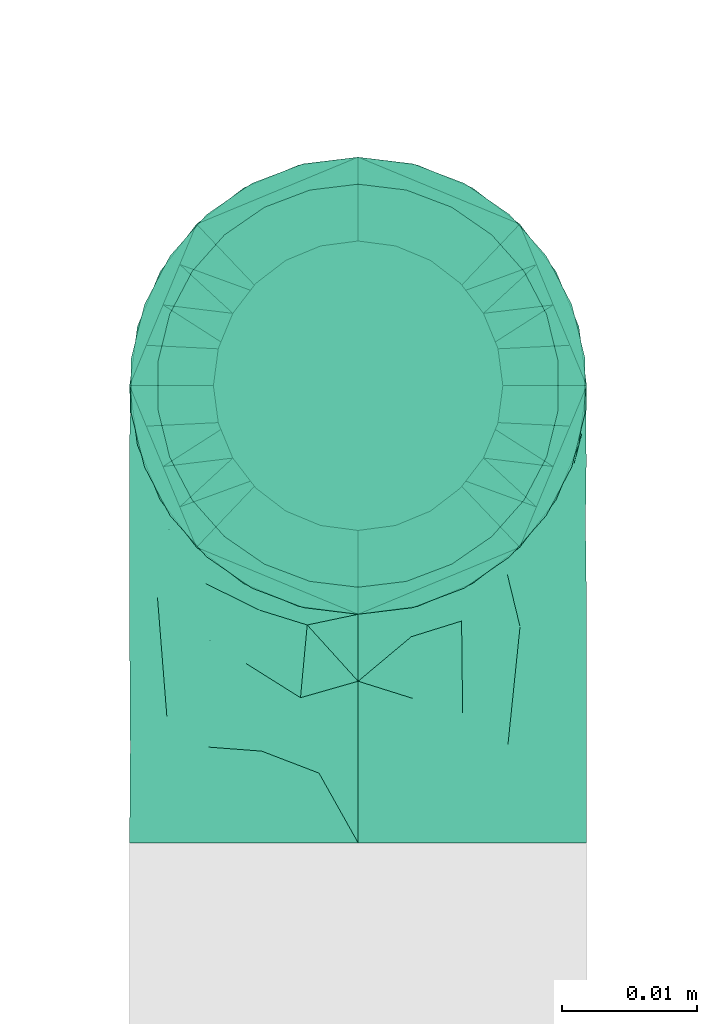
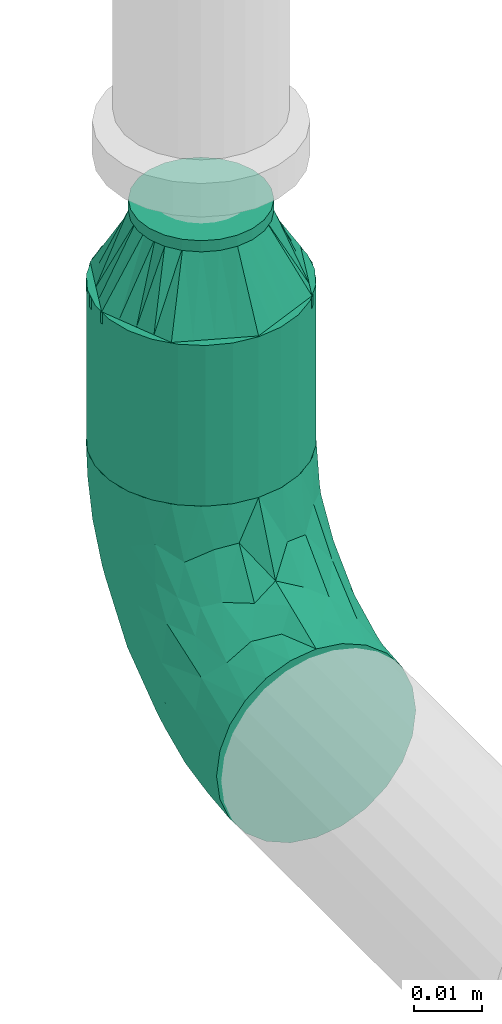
# One storey, part 68 of 94: 2 flow fittings, 1 flow segment.
"""IFC2X3 building model written with IfcOpenShell, lengths in millimetres."""

from ifc_helpers import new_model, entity, si_unit, converted_unit, derived_unit, direction, frame, origin_with_axes, origin_2d_with_axis, place, context, subcontext, project, spatial, hollow_circle, extrude, open_shell, surface_model, source, transform, mapped, type_object, element, save


model = new_model("IFC2X3")

# Units and contexts
model_context = context("Model", 3, precision=0.01, world=frame((0.0, 4.29681676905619e-09, 0.0)), true_north=direction((4.01073788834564e-13, 1.0)))
plan_context = context("Plan", 3, precision=0.01, world=frame((0.0, 4.29681676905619e-09, 0.0)), true_north=direction((4.01073788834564e-13, 1.0)))
body_context = subcontext(model_context, "Body", "Model", "MODEL_VIEW")
ifc_project = project(units=[converted_unit("PLANEANGLEUNIT", "DEGREE", entity("IfcPositiveLengthMeasure", 0.0174532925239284), si_unit("PLANEANGLEUNIT", "RADIAN"), dimensions=[0, 0, 0, 0, 0, 0, 0]), si_unit("AREAUNIT", "SQUARE_METRE"), si_unit("LENGTHUNIT", "METRE", prefix="MILLI"), si_unit("MASSUNIT", "GRAM", prefix="KILO"), si_unit("POWERUNIT", "WATT"), si_unit("PRESSUREUNIT", "PASCAL"), si_unit("FORCEUNIT", "NEWTON", prefix="KILO"), si_unit("ELECTRICCURRENTUNIT", "AMPERE"), si_unit("THERMODYNAMICTEMPERATUREUNIT", "DEGREE_CELSIUS"), si_unit("TIMEUNIT", "SECOND"), si_unit("VOLUMEUNIT", "CUBIC_METRE"), derived_unit("LINEARVELOCITYUNIT", [(si_unit("LENGTHUNIT", "METRE"), 1), (si_unit("TIMEUNIT", "SECOND"), -1)]), derived_unit("VOLUMETRICFLOWRATEUNIT", [(si_unit("VOLUMEUNIT", "CUBIC_METRE"), 1), (si_unit("TIMEUNIT", "SECOND"), -1)]), derived_unit("THERMALTRANSMITTANCEUNIT", [(si_unit("POWERUNIT", "WATT"), 1), (si_unit("THERMODYNAMICTEMPERATUREUNIT", "KELVIN"), -1), (si_unit("AREAUNIT", "SQUARE_METRE"), -1)])], contexts=[model_context, plan_context])

# Site, building, storey
site_placement = place(None, frame((0.0, -4.29681676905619e-09, 0.0), z_axis=(0.0, 0.0, 1.0), x_axis=(1.0, 0.0, 0.0)))
site = spatial("IfcSite", under=ifc_project, at=site_placement, CompositionType="ELEMENT")
building_placement = place(site_placement, frame((0.0, 4.29681676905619e-09, 0.0), z_axis=(0.0, 0.0, 1.0), x_axis=(1.0, 0.0, 0.0)))
building = spatial("IfcBuilding", under=site, at=building_placement, Name="mc-building", CompositionType="ELEMENT")
storey_placement = place(building_placement, frame((0.0, 0.0, 200300.0), z_axis=(0.0, 0.0, 1.0), x_axis=(1.0, 0.0, 0.0)))
storey = spatial("IfcBuildingStorey", under=building, at=storey_placement, Name="Nivå C", CompositionType="ELEMENT", Elevation=200300.0)

# Flow fittings
pipe_fitting_type_1 = type_object("IfcPipeFittingType", Name="magi_pipe_fe_reducer_centric_short_NOR", PredefinedType="TRANSITION")
shared_shape_1 = source(origin_with_axes(), body_context, "Body", "SurfaceModel", [
    surface_model("IfcShellBasedSurfaceModel", [(14.4, 5.35, -9.26647), (14.4, 0.0, -10.7), (14.4, 2.76936, -10.33541), (14.4, 10.33541, -2.76936), (14.4, 7.56604, -7.56604), (14.4, -10.33541, -2.76936), (14.4, 9.26647, -5.35), (14.4, 0.0, 10.7), (14.4, -5.35, -9.26647), (14.4, -2.76936, -10.33541), (14.4, -7.56604, -7.56604), (14.4, -9.26647, -5.35), (14.4, 10.7, 0.0), (14.4, 10.33541, 2.76936), (14.4, 9.26647, 5.35), (14.4, 7.56604, 7.56604), (14.4, 2.76936, 10.33541), (14.4, 5.35, 9.26647), (14.4, -10.33541, 2.76936), (14.4, -7.56604, 7.56604), (14.4, -9.26647, 5.35), (14.4, -10.7, 0.0), (14.4, -2.76936, 10.33541), (14.4, -5.35, 9.26647), (12.4, 2.76936, 10.33541), (12.4, -10.33541, -2.76936), (12.4, 0.0, 10.7), (12.4, 5.35, 9.26647), (12.4, 7.56604, 7.56604), (12.4, 9.26647, 5.35), (12.4, 10.33541, 2.76936), (12.4, -10.33541, 2.76936), (12.4, -2.76936, 10.33541), (12.4, -7.56604, 7.56604), (12.4, -5.35, 9.26647), (12.4, -9.26647, 5.35), (12.4, -10.7, 0.0), (12.4, 10.33541, -2.76936), (12.4, 5.35, -9.26647), (12.4, 9.26647, -5.35), (12.4, 7.56604, -7.56604), (12.4, 2.76936, -10.33541), (12.4, -9.26647, -5.35), (12.4, -5.35, -9.26647), (12.4, -7.56604, -7.56604), (12.4, 0.0, -10.7), (12.4, -2.76936, -10.33541), (12.4, 10.7, 0.0), (-2.0, 11.9501, 11.9501), (-2.0, 0.0, 16.9), (-2.0, 4.37404, 16.32415), (-2.0, 8.45, 14.63583), (-2.0, 14.63583, 8.45), (-2.0, 16.32415, 4.37404), (-2.0, -16.32415, 4.37404), (-2.0, -8.45, 14.63583), (-2.0, -14.63583, 8.45), (-2.0, -11.9501, 11.9501), (-2.0, -4.37404, 16.32415), (-2.0, -16.32415, -4.37404), (-2.0, -16.9, 0.0), (-2.0, -8.45, -14.63583), (-2.0, 16.32415, -4.37404), (-2.0, 11.9501, -11.9501), (-2.0, 14.63583, -8.45), (-2.0, 8.45, -14.63583), (-2.0, 4.37404, -16.32415), (-2.0, 0.0, -16.9), (-2.0, -11.9501, -11.9501), (-2.0, -14.63583, -8.45), (-2.0, -4.37404, -16.32415), (-2.0, 16.9, 0.0), (0.0, 4.37404, -16.32415), (0.0, 8.45, -14.63583), (0.0, 11.9501, -11.9501), (0.0, 0.0, -16.9), (0.0, 16.32415, -4.37404), (0.0, 16.32415, 4.37404), (0.0, 14.63583, -8.45), (0.0, -8.45, -14.63583), (0.0, -4.37404, -16.32415), (0.0, -11.9501, -11.9501), (0.0, -16.32415, -4.37404), (0.0, -14.63583, -8.45), (0.0, -16.32415, 4.37404), (0.0, 16.9, 0.0), (0.0, 14.63583, 8.45), (0.0, 11.9501, 11.9501), (0.0, 4.37404, 16.32415), (0.0, 8.45, 14.63583), (0.0, 0.0, 16.9), (0.0, -14.63583, 8.45), (0.0, -16.9, 0.0), (0.0, -8.45, 14.63583), (0.0, -11.9501, 11.9501), (0.0, -4.37404, 16.32415), (12.4, 9.3625, -2.31662), (0.0, 14.42505, -5.97505), (0.0, 15.66253, -2.98753), (12.4, -6.6875, -6.94985), (0.0, -13.18758, -8.96258), (0.0, 2.98753, -15.66253), (12.4, 0.0, -9.26647), (12.4, 6.6875, -6.94985), (0.0, 8.96258, -13.18758), (12.4, -9.3625, -2.31662), (0.0, -15.66253, -2.98753), (0.0, -14.42505, -5.97505), (0.0, 5.97505, -14.42505), (0.0, -2.98753, -15.66253), (0.0, -8.96258, -13.18758), (0.0, 13.18758, -8.96258), (12.4, 8.025, -4.63324), (12.4, -2.675, -9.26647), (12.4, 2.675, -9.26647), (0.0, -5.97505, -14.42505), (12.4, -8.025, -4.63324), (12.4, -9.3625, 2.31662), (0.0, -14.42505, 5.97505), (0.0, -15.66253, 2.98753), (12.4, 6.6875, 6.94985), (0.0, 13.18758, 8.96258), (0.0, -2.98753, 15.66253), (12.4, 0.0, 9.26647), (12.4, -6.6875, 6.94985), (0.0, -8.96258, 13.18758), (12.4, 9.3625, 2.31662), (0.0, 15.66253, 2.98753), (0.0, 14.42505, 5.97505), (0.0, -5.97505, 14.42505), (0.0, 2.98753, 15.66253), (0.0, 8.96258, 13.18758), (0.0, -13.18758, 8.96258), (12.4, -8.025, 4.63324), (12.4, 2.675, 9.26647), (12.4, -2.675, 9.26647), (0.0, 5.97505, 14.42505), (12.4, 8.025, 4.63324)], [open_shell([[[0, 1, 2]], [[3, 0, 4]], [[5, 0, 3]], [[3, 4, 6]], [[7, 5, 3]], [[1, 8, 9]], [[1, 0, 8]], [[10, 5, 11]], [[5, 10, 8]], [[0, 5, 8]], [[3, 12, 13]], [[13, 14, 15]], [[13, 15, 16]], [[7, 3, 16]], [[16, 15, 17]], [[7, 18, 5]], [[18, 19, 20]], [[21, 5, 18]], [[19, 22, 23]], [[22, 19, 18]], [[7, 22, 18]], [[13, 16, 3]], [[24, 25, 26]], [[27, 25, 24]], [[28, 29, 30]], [[28, 25, 27]], [[31, 26, 25]], [[32, 33, 34]], [[33, 32, 31]], [[33, 31, 35]], [[32, 26, 31]], [[31, 25, 36]], [[30, 37, 28]], [[25, 28, 37]], [[38, 37, 39]], [[37, 38, 25]], [[38, 39, 40]], [[41, 25, 38]], [[42, 43, 44]], [[43, 42, 25]], [[43, 45, 46]], [[43, 25, 41]], [[41, 45, 43]], [[37, 30, 47]], [[25, 5, 36]], [[42, 11, 25]], [[8, 44, 43]], [[42, 44, 10]], [[9, 43, 46]], [[25, 11, 5]], [[5, 21, 36]], [[9, 8, 43]], [[10, 44, 8]], [[10, 11, 42]], [[1, 9, 46]], [[46, 45, 1]], [[41, 2, 45]], [[38, 0, 41]], [[6, 40, 39]], [[38, 40, 4]], [[3, 39, 37]], [[38, 4, 0]], [[0, 2, 41]], [[12, 3, 37]], [[6, 39, 3]], [[6, 4, 40]], [[47, 12, 37]], [[45, 2, 1]], [[30, 13, 47]], [[29, 14, 30]], [[17, 28, 27]], [[29, 28, 15]], [[16, 27, 24]], [[30, 14, 13]], [[13, 12, 47]], [[16, 17, 27]], [[15, 28, 17]], [[15, 14, 29]], [[7, 16, 24]], [[24, 26, 7]], [[32, 22, 26]], [[34, 23, 32]], [[20, 33, 35]], [[34, 33, 19]], [[18, 35, 31]], [[34, 19, 23]], [[23, 22, 32]], [[21, 18, 31]], [[20, 35, 18]], [[20, 19, 33]], [[36, 21, 31]], [[26, 22, 7]], [[48, 49, 50]], [[48, 50, 51]], [[48, 52, 53]], [[48, 53, 49]], [[49, 53, 54]], [[55, 56, 57]], [[55, 58, 49]], [[56, 55, 49]], [[49, 54, 56]], [[54, 59, 60]], [[54, 53, 61]], [[53, 62, 63]], [[63, 62, 64]], [[63, 65, 66]], [[61, 53, 63]], [[67, 63, 66]], [[59, 68, 69]], [[68, 59, 61]], [[61, 67, 70]], [[59, 54, 61]], [[63, 67, 61]], [[53, 71, 62]], [[72, 73, 74]], [[75, 72, 74]], [[74, 76, 77]], [[76, 74, 78]], [[74, 77, 79]], [[75, 79, 80]], [[75, 74, 79]], [[81, 82, 83]], [[82, 81, 79]], [[79, 84, 82]], [[77, 76, 85]], [[77, 86, 87]], [[77, 87, 88]], [[88, 84, 79]], [[88, 87, 89]], [[84, 88, 90]], [[90, 91, 84]], [[92, 82, 84]], [[91, 93, 94]], [[91, 90, 93]], [[93, 90, 95]], [[79, 77, 88]], [[59, 82, 60]], [[69, 83, 59]], [[79, 68, 61]], [[69, 68, 81]], [[80, 61, 70]], [[59, 83, 82]], [[82, 92, 60]], [[80, 79, 61]], [[81, 68, 79]], [[81, 83, 69]], [[75, 80, 70]], [[70, 67, 75]], [[66, 72, 67]], [[65, 73, 66]], [[78, 63, 64]], [[65, 63, 74]], [[76, 64, 62]], [[65, 74, 73]], [[73, 72, 66]], [[85, 76, 62]], [[78, 64, 76]], [[78, 74, 63]], [[71, 85, 62]], [[67, 72, 75]], [[53, 77, 71]], [[52, 86, 53]], [[89, 48, 51]], [[52, 48, 87]], [[88, 51, 50]], [[53, 86, 77]], [[77, 85, 71]], [[88, 89, 51]], [[87, 48, 89]], [[87, 86, 52]], [[90, 88, 50]], [[50, 49, 90]], [[58, 95, 49]], [[55, 93, 58]], [[91, 57, 56]], [[55, 57, 94]], [[84, 56, 54]], [[55, 94, 93]], [[93, 95, 58]], [[92, 84, 54]], [[91, 56, 84]], [[91, 94, 57]], [[60, 92, 54]], [[49, 95, 90]], [[27, 34, 47]], [[47, 34, 43]], [[43, 38, 47]], [[43, 34, 36]], [[90, 87, 94]], [[92, 94, 87]], [[87, 74, 92]], [[75, 92, 74]], [[81, 92, 75]], [[74, 87, 85]], [[96, 97, 98]], [[81, 99, 100]], [[101, 102, 75]], [[98, 85, 47]], [[74, 103, 104]], [[104, 103, 38]], [[105, 106, 107]], [[38, 108, 104]], [[102, 109, 75]], [[110, 99, 81]], [[47, 96, 98]], [[103, 111, 112]], [[109, 102, 113]], [[36, 92, 106]], [[102, 101, 114]], [[110, 115, 43]], [[96, 112, 97]], [[107, 116, 105]], [[36, 106, 105]], [[113, 115, 109]], [[43, 115, 113]], [[116, 107, 100]], [[108, 38, 114]], [[111, 103, 74]], [[111, 97, 112]], [[99, 110, 43]], [[116, 100, 99]], [[101, 108, 114]], [[117, 118, 119]], [[87, 120, 121]], [[122, 123, 90]], [[119, 92, 36]], [[94, 124, 125]], [[125, 124, 34]], [[126, 127, 128]], [[34, 129, 125]], [[123, 130, 90]], [[131, 120, 87]], [[36, 117, 119]], [[124, 132, 133]], [[130, 123, 134]], [[47, 85, 127]], [[123, 122, 135]], [[131, 136, 27]], [[117, 133, 118]], [[128, 137, 126]], [[47, 127, 126]], [[134, 136, 130]], [[27, 136, 134]], [[137, 128, 121]], [[129, 34, 135]], [[132, 124, 94]], [[132, 118, 133]], [[120, 131, 27]], [[137, 121, 120]], [[122, 129, 135]]])]),
])
flow_fitting_1_placement = place(storey_placement, frame((530500.0, 403933.19532, 2962.64799999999), z_axis=(-1.0, 0.0, 0.0), x_axis=(0.0, 0.0, 1.0)))
element("IfcFlowFitting", 1, at=flow_fitting_1_placement, inside=storey, type_object=pipe_fitting_type_1, Name="magi_pipe_fe_reducer_centric_short_NOR", context=body_context, shape_type="MappedRepresentation", body=[
    mapped(shared_shape_1, transform((0.0, 0.0, 0.0), scale=1.0)),
])
pipe_fitting_type_2 = type_object("IfcPipeFittingType", Name="magi_pipe_fe_elbow_short_001", PredefinedType="BEND")
shared_shape_2 = source(origin_with_axes(), body_context, "Body", "SurfaceModel", [
    surface_model("IfcShellBasedSurfaceModel", [(-33.8, 8.45, -14.63583), (-33.8, 4.37404, -16.32415), (-33.8, 11.9501, -11.9501), (-33.8, -11.9501, -11.9501), (-33.8, -14.63583, -8.45), (-33.8, -8.45, -14.63583), (-33.8, 0.0, -16.9), (-33.8, -4.37404, -16.32415), (-33.8, -4.37404, 16.32415), (-33.8, 0.0, 16.9), (-33.8, -8.45, 14.63583), (-33.8, 16.32415, -4.37404), (-33.8, 14.63583, -8.45), (-33.8, -16.32415, -4.37404), (-33.8, -16.9, 0.0), (-33.8, -16.32415, 4.37404), (-33.8, 11.9501, 11.9501), (-33.8, 14.63583, 8.45), (-33.8, 16.32415, 4.37404), (-33.8, 4.37404, 16.32415), (-33.8, 8.45, 14.63583), (-33.8, -14.63583, 8.45), (-33.8, -11.9501, 11.9501), (-33.8, 16.9, 0.0), (-11.9501, 33.8, -11.9501), (0.0, 33.8, -16.9), (-4.37404, 33.8, -16.32415), (-8.45, 33.8, -14.63583), (-14.63583, 33.8, -8.45), (-16.32415, 33.8, -4.37404), (14.63583, 33.8, -8.45), (8.45, 33.8, 14.63583), (16.32415, 33.8, -4.37404), (8.45, 33.8, -14.63583), (11.9501, 33.8, -11.9501), (4.37404, 33.8, -16.32415), (16.32415, 33.8, 4.37404), (16.9, 33.8, 0.0), (-11.9501, 33.8, 11.9501), (-16.32415, 33.8, 4.37404), (-14.63583, 33.8, 8.45), (-8.45, 33.8, 14.63583), (-4.37404, 33.8, 16.32415), (11.9501, 33.8, 11.9501), (14.63583, 33.8, 8.45), (0.0, 33.8, 16.9), (4.37404, 33.8, 16.32415), (-16.9, 33.8, 0.0), (-24.79389, -13.12945, 9.48721), (-22.19287, -9.75018, 12.59315), (-24.09897, -14.97035, 0.0), (-14.93934, -10.76256, 8.5297), (-22.46095, -14.75051, 5.27077), (14.75051, 22.46094, 5.27077), (11.9251, 13.23888, 4.33236), (13.04069, 14.39795, 0.0), (7.71387, 13.68847, 11.55891), (9.75018, 22.19287, 12.59315), (4.10169, 13.0571, 14.04018), (-24.84007, -6.39063, 15.2048), (-25.81779, -2.23879, 16.61097), (-23.66549, 2.59054, 16.87119), (-26.50418, 14.06512, 11.08152), (-24.21253, 17.66365, 7.72657), (-29.58514, 15.86957, 7.00283), (-6.17382, -7.5455, 0.0), (-13.23888, -11.9251, 4.33236), (-14.39795, -13.04069, 0.0), (-17.81434, 18.87373, 11.97104), (-6.30846, 29.15138, 15.82987), (-2.31622, 25.28002, 16.85849), (-29.23923, 10.23435, 13.77053), (-1.45439, -2.85688, 7.61475), (-0.28326, 0.34872, 10.09509), (-5.74484, -4.04709, 10.4122), (-4.41137, 11.31918, 16.59407), (-8.39727, 3.10034, 15.7812), (-1.72649, 9.1306, 15.53089), (-17.39909, 24.75344, 7.64977), (-26.19233, 20.0512, 0.0), (-28.14518, 17.29657, 4.25857), (-26.05147, 6.6281, 15.96447), (-5.87354, 16.61944, 16.86968), (-12.51807, 12.51807, 16.48937), (-10.06312, 7.38516, 16.81295), (-3.01882, 3.01882, 13.81718), (-13.0571, -4.10169, 14.04018), (-16.82553, -0.15166, 16.38038), (10.76256, 14.93934, 8.5297), (13.12945, 24.79389, 9.48721), (6.39063, 24.84007, 15.2048), (2.23879, 25.81779, 16.61097), (-13.68847, -7.71387, 11.55891), (14.97035, 24.09897, 0.0), (-7.30894, 22.89991, 16.09489), (-10.67958, 26.17414, 14.008), (-12.78295, 18.26924, 15.06066), (-13.88562, 22.45231, 12.93244), (-18.04944, 15.16501, 14.04434), (-23.11658, 20.08178, 4.02986), (-21.84989, 21.84989, 0.0), (-18.55817, 25.48277, 3.93065), (-13.95142, 26.94732, 11.03289), (-18.57098, 7.23906, 16.59756), (-16.58335, 4.14122, 16.89279), (-17.96666, 11.46709, 15.63151), (-9.84453, 17.54304, 16.18938), (0.15166, 16.82553, 16.38038), (-23.27207, 11.47201, 14.23154), (3.84842, 5.86994, 10.70473), (-8.0212, -7.54413, 7.93275), (1.00345, -2.19508, 4.57414), (5.13203, 3.01004, 5.90201), (5.24161, 1.7543, 2.53265), (8.70457, 7.04947, 3.99182), (-20.0512, 26.19233, 0.0), (8.4852, 8.76699, 7.09296), (-4.55488, -6.72064, 4.90681), (2.05031, -2.05031, 0.0), (7.5455, 6.17382, 0.0), (-26.75399, 2.1369, -16.845), (-14.61995, 24.73803, -11.27736), (-28.45274, -13.45335, -9.81895), (-26.00469, 6.63555, -15.96645), (-23.06726, 20.04573, -4.26202), (-13.80647, -4.26506, -14.17873), (-14.67501, -0.21081, -16.07388), (-6.7902, -0.2828, -13.8478), (-24.53586, 11.08096, -14.13417), (-26.72048, 14.00837, -11.05776), (10.0967, 24.44989, -12.75976), (5.83237, 21.40218, -15.03047), (6.66249, 28.54238, -15.38093), (-20.38182, 15.48705, -12.74596), (12.53268, 21.23441, -9.15363), (12.54494, 15.67504, -5.54878), (9.7522, 12.89279, -8.66343), (-15.65186, 19.64213, -13.01327), (-12.03528, 20.66498, -14.67665), (-15.61907, 15.61906, -14.83879), (-25.56551, -15.26206, 0.0), (-24.65452, -15.12934, -5.50955), (13.45335, 28.45274, -9.81895), (15.12934, 24.65452, -5.50955), (-7.35442, -8.31014, -5.65563), (-15.67504, -12.54494, -5.54878), (-24.44989, -10.0967, -12.75976), (0.16522, 0.41303, -9.71728), (-5.70658, -5.33066, -8.89288), (-5.13869, -2.37198, -11.53565), (-21.23441, -12.53268, -9.15363), (0.71146, 7.93863, -14.09382), (0.21081, 14.67501, -16.07388), (3.49291, 14.42772, -14.76381), (-24.89911, -2.13088, -16.591), (-28.54238, -6.66249, -15.38093), (-18.44386, -7.71663, -13.26957), (2.13088, 24.89911, -16.591), (-28.64342, 17.44413, -2.89318), (1.70017, -1.28722, -5.09504), (-16.57067, 26.81947, -7.36596), (-17.69055, 27.4263, -3.76405), (-12.89279, -9.7522, -8.66343), (-5.96611, 5.96611, -15.95814), (-20.53709, 20.09345, -8.28985), (-2.1369, 26.75399, -16.845), (-6.89872, 24.58781, -16.02578), (-10.60739, 26.53157, -13.98044), (-21.40218, -5.83237, -15.03047), (2.93192, 5.89627, -11.55917), (6.89393, 12.61842, -11.82233), (5.58056, 5.95325, -8.79455), (-3.99512, 18.61798, -16.89635), (8.31014, 7.35442, -5.65563), (-9.1383, 9.86148, -16.89041), (-9.99983, 16.02119, -16.39699), (-16.68576, 9.78031, -16.34199), (-27.01915, 16.61158, -7.12979), (15.26206, 25.56551, 0.0), (-18.61798, 3.99512, -16.89635), (-19.37495, 27.82495, 0.0), (-12.61842, -6.89393, -11.82233), (-18.84705, 19.14018, -10.96545)], [open_shell([[[0, 1, 2]], [[3, 4, 5]], [[6, 7, 5]], [[8, 9, 10]], [[1, 6, 2]], [[11, 12, 2]], [[4, 2, 6]], [[2, 13, 10]], [[5, 4, 6]], [[2, 4, 13]], [[14, 15, 13]], [[11, 2, 16]], [[11, 17, 18]], [[11, 16, 17]], [[19, 20, 16]], [[16, 2, 10]], [[19, 16, 10]], [[21, 22, 15]], [[22, 13, 15]], [[22, 10, 13]], [[10, 9, 19]], [[11, 18, 23]], [[24, 25, 26]], [[24, 26, 27]], [[24, 28, 29]], [[25, 24, 30]], [[31, 32, 24]], [[33, 30, 34]], [[33, 35, 25]], [[25, 30, 33]], [[32, 30, 24]], [[32, 36, 37]], [[38, 24, 29]], [[39, 40, 29]], [[40, 38, 29]], [[38, 41, 42]], [[38, 31, 24]], [[31, 38, 42]], [[36, 43, 44]], [[36, 32, 43]], [[31, 45, 46]], [[32, 31, 43]], [[42, 45, 31]], [[39, 29, 47]], [[22, 48, 49]], [[15, 14, 50]], [[51, 48, 52]], [[53, 54, 55]], [[48, 22, 21]], [[15, 52, 21]], [[56, 57, 58]], [[49, 10, 22]], [[49, 59, 10]], [[9, 60, 61]], [[62, 63, 64]], [[65, 66, 67]], [[57, 43, 31]], [[62, 68, 63]], [[42, 69, 70]], [[20, 71, 16]], [[8, 60, 9]], [[72, 73, 74]], [[75, 76, 77]], [[16, 62, 17]], [[40, 39, 78]], [[79, 23, 80]], [[64, 18, 17]], [[9, 61, 19]], [[19, 81, 20]], [[82, 83, 84]], [[74, 85, 86]], [[59, 86, 87]], [[88, 89, 57]], [[90, 31, 46]], [[44, 53, 36]], [[46, 45, 91]], [[54, 53, 88]], [[44, 89, 53]], [[92, 86, 49]], [[89, 44, 43]], [[10, 59, 8]], [[53, 55, 93]], [[93, 36, 53]], [[66, 52, 67]], [[94, 82, 70]], [[95, 96, 94]], [[97, 98, 96]], [[79, 99, 100]], [[41, 38, 95]], [[101, 100, 99]], [[68, 78, 63]], [[42, 41, 69]], [[23, 18, 80]], [[95, 94, 69]], [[78, 101, 99]], [[38, 102, 95]], [[70, 45, 42]], [[97, 95, 102]], [[15, 50, 52]], [[90, 57, 31]], [[57, 90, 58]], [[81, 19, 61]], [[103, 104, 84]], [[105, 81, 103]], [[38, 40, 102]], [[106, 96, 83]], [[94, 106, 82]], [[91, 70, 107]], [[71, 62, 16]], [[62, 108, 98]], [[86, 59, 49]], [[67, 52, 50]], [[60, 59, 87]], [[92, 49, 51]], [[86, 85, 76]], [[91, 90, 46]], [[37, 36, 93]], [[107, 77, 58]], [[107, 58, 90]], [[58, 85, 109]], [[110, 74, 92]], [[72, 74, 110]], [[66, 51, 52]], [[72, 111, 112]], [[113, 114, 112]], [[56, 88, 57]], [[52, 48, 21]], [[49, 48, 51]], [[57, 89, 43]], [[53, 89, 88]], [[103, 81, 61]], [[71, 81, 108]], [[18, 64, 80]], [[63, 78, 99]], [[47, 115, 101]], [[101, 115, 100]], [[40, 78, 102]], [[68, 102, 78]], [[97, 96, 95]], [[105, 98, 108]], [[103, 84, 83]], [[107, 70, 82]], [[76, 84, 87]], [[82, 84, 75]], [[70, 91, 45]], [[90, 91, 107]], [[59, 60, 8]], [[61, 60, 87]], [[73, 85, 74]], [[109, 112, 116]], [[103, 61, 104]], [[105, 103, 83]], [[96, 105, 83]], [[81, 105, 108]], [[96, 98, 105]], [[62, 98, 68]], [[61, 87, 104]], [[87, 84, 104]], [[86, 76, 87]], [[77, 76, 85]], [[58, 77, 85]], [[75, 77, 107]], [[82, 75, 107]], [[76, 75, 84]], [[81, 71, 20]], [[62, 71, 108]], [[95, 69, 41]], [[70, 69, 94]], [[62, 64, 17]], [[80, 63, 99]], [[63, 80, 64]], [[80, 99, 79]], [[66, 65, 117]], [[110, 66, 117]], [[112, 114, 116]], [[118, 117, 65]], [[110, 92, 51]], [[112, 111, 113]], [[119, 55, 54]], [[74, 86, 92]], [[58, 109, 56]], [[116, 56, 109]], [[66, 110, 51]], [[72, 110, 117]], [[111, 72, 117]], [[73, 112, 109]], [[117, 118, 111]], [[113, 111, 118]], [[118, 119, 113]], [[114, 119, 54]], [[119, 114, 113]], [[116, 54, 88]], [[54, 116, 114]], [[116, 88, 56]], [[112, 73, 72]], [[85, 73, 109]], [[78, 39, 101]], [[47, 101, 39]], [[102, 68, 97]], [[97, 68, 98]], [[82, 106, 83]], [[94, 96, 106]], [[1, 120, 6]], [[28, 24, 121]], [[3, 122, 4]], [[0, 123, 1]], [[100, 124, 79]], [[125, 126, 127]], [[128, 2, 129]], [[130, 131, 132]], [[128, 129, 133]], [[134, 135, 136]], [[137, 138, 139]], [[128, 0, 2]], [[67, 140, 141]], [[134, 142, 143]], [[141, 13, 4]], [[144, 65, 145]], [[146, 3, 5]], [[147, 148, 149]], [[145, 141, 150]], [[151, 152, 153]], [[154, 7, 6]], [[5, 155, 146]], [[150, 146, 156]], [[155, 5, 7]], [[143, 135, 134]], [[35, 157, 25]], [[23, 79, 158]], [[148, 159, 144]], [[160, 161, 29]], [[145, 162, 144]], [[163, 152, 151]], [[29, 28, 160]], [[121, 164, 160]], [[33, 34, 130]], [[25, 165, 26]], [[26, 165, 166]], [[142, 34, 30]], [[24, 27, 167]], [[124, 161, 164]], [[157, 35, 132]], [[155, 154, 168]], [[123, 0, 128]], [[169, 170, 171]], [[172, 157, 152]], [[26, 166, 27]], [[132, 35, 33]], [[142, 130, 34]], [[168, 154, 126]], [[136, 135, 173]], [[133, 137, 139]], [[2, 12, 129]], [[170, 131, 130]], [[30, 32, 143]], [[172, 174, 175]], [[176, 123, 128]], [[158, 177, 11]], [[135, 55, 119]], [[167, 27, 166]], [[175, 166, 172]], [[137, 167, 138]], [[122, 141, 4]], [[140, 14, 13]], [[32, 37, 178]], [[170, 130, 134]], [[152, 157, 131]], [[165, 157, 172]], [[153, 170, 151]], [[152, 163, 174]], [[168, 125, 156]], [[122, 146, 150]], [[120, 154, 6]], [[179, 174, 126]], [[179, 126, 154]], [[126, 163, 127]], [[162, 145, 150]], [[140, 13, 141]], [[32, 178, 143]], [[55, 143, 178]], [[177, 129, 12]], [[128, 133, 139]], [[176, 128, 139]], [[120, 123, 179]], [[121, 160, 28]], [[161, 100, 180]], [[166, 175, 138]], [[121, 24, 167]], [[161, 47, 29]], [[79, 124, 158]], [[124, 164, 177]], [[161, 124, 100]], [[136, 171, 170]], [[127, 163, 151]], [[147, 171, 159]], [[148, 144, 162]], [[127, 151, 169]], [[127, 181, 125]], [[129, 177, 164]], [[12, 11, 177]], [[159, 65, 144]], [[67, 141, 145]], [[143, 55, 135]], [[135, 119, 173]], [[123, 120, 1]], [[154, 120, 179]], [[157, 165, 25]], [[166, 165, 172]], [[172, 152, 174]], [[176, 139, 175]], [[126, 174, 163]], [[176, 174, 179]], [[174, 176, 175]], [[123, 176, 179]], [[150, 181, 162]], [[127, 149, 181]], [[181, 148, 162]], [[159, 148, 147]], [[171, 136, 173]], [[170, 134, 136]], [[159, 171, 173]], [[171, 147, 169]], [[169, 147, 149]], [[151, 170, 169]], [[164, 182, 129]], [[182, 121, 137]], [[181, 149, 148]], [[169, 149, 127]], [[182, 137, 133]], [[167, 137, 121]], [[166, 138, 167]], [[175, 139, 138]], [[129, 182, 133]], [[121, 182, 164]], [[161, 160, 164]], [[47, 161, 180]], [[177, 158, 124]], [[23, 158, 11]], [[130, 132, 33]], [[157, 132, 131]], [[143, 142, 30]], [[130, 142, 134]], [[154, 155, 7]], [[146, 155, 168]], [[146, 122, 3]], [[141, 122, 150]], [[152, 131, 153]], [[159, 119, 118]], [[67, 145, 65]], [[170, 153, 131]], [[119, 159, 173]], [[159, 118, 65]], [[156, 125, 181]], [[126, 125, 168]], [[150, 156, 181]], [[168, 156, 146]]])]),
])
flow_fitting_2_placement = place(storey_placement, frame((530500.0, 403933.19532, 2900.0), z_axis=(1.0, 0.0, 0.0), x_axis=(0.0, 1.0, 0.0)))
element("IfcFlowFitting", 2, at=flow_fitting_2_placement, inside=storey, type_object=pipe_fitting_type_2, Name="magi_pipe_fe_elbow_short_001", context=body_context, shape_type="MappedRepresentation", body=[
    mapped(shared_shape_2, transform((0.0, 0.0, 0.0), scale=1.0)),
])

# Flow segment
pipe_segment_type = type_object("IfcPipeSegmentType", Name="Stålrør normaltykke", PredefinedType="RIGIDSEGMENT")
shared_shape_3 = source(origin_with_axes(), body_context, "Body", "SweptSolid", [
    extrude(hollow_circle(Radius=16.9, WallThickness=2.0, at=origin_2d_with_axis()), frame((0.0, 0.0, 0.0), z_axis=(1.0, 0.0, 0.0), x_axis=(0.0, 1.0, 0.0)), (0.0, 0.0, 1.0), 28.8),
])
flow_segment_placement = place(storey_placement, frame((530500.0, 403933.19532, 2933.79999999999), z_axis=(-1.0, 0.0, 0.0), x_axis=(0.0, 0.0, 1.0)))
element("IfcFlowSegment", 3, at=flow_segment_placement, inside=storey, type_object=pipe_segment_type, Name="Stålrør normaltykke", context=body_context, shape_type="MappedRepresentation", body=[
    mapped(shared_shape_3, transform((0.0, 0.0, 0.0), scale=1.0)),
])

save(model, "model.ifc")
